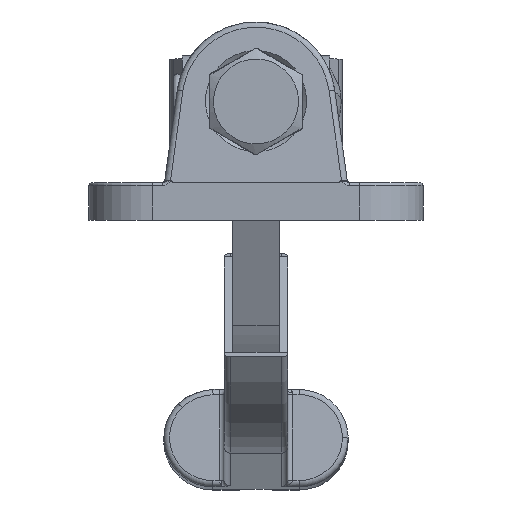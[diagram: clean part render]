
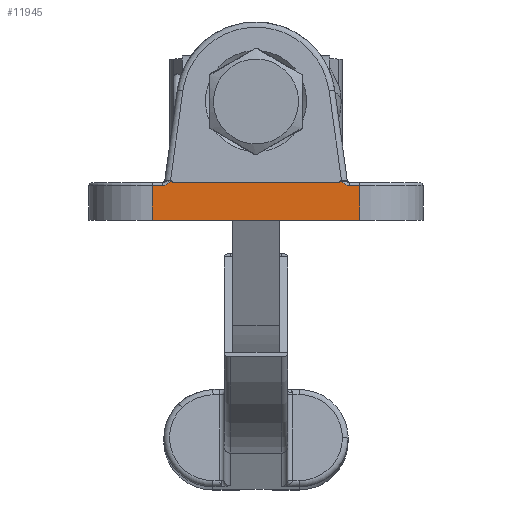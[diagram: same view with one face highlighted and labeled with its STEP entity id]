
A CAD part, left-side view. The second image highlights one B-rep face of the part: STEP entity #11945.
In plain terms, the highlighted planar face has unit normal (-1, 0, 0).
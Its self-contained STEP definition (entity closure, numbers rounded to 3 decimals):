
#317=PLANE('',#12904);
#1061=FACE_OUTER_BOUND('',#1761,.T.);
#1761=EDGE_LOOP('',(#8206,#8207,#8208,#8209,#8210,#8211,#8212,#8213));
#2539=LINE('',#17441,#3427);
#2550=LINE('',#17474,#3438);
#2551=LINE('',#17478,#3439);
#2552=LINE('',#17480,#3440);
#2553=LINE('',#17544,#3441);
#2554=LINE('',#17564,#3442);
#3427=VECTOR('',#13855,1000.);
#3438=VECTOR('',#13888,1000.);
#3439=VECTOR('',#13893,1000.);
#3440=VECTOR('',#13894,1000.);
#3441=VECTOR('',#13895,1000.);
#3442=VECTOR('',#13896,1000.);
#4266=B_SPLINE_CURVE_WITH_KNOTS('',3,(#17482,#17483,#17484,#17485,#17486,
#17487,#17488,#17489,#17490,#17491,#17492,#17493,#17494,#17495,#17496,#17497,
#17498,#17499,#17500,#17501,#17502,#17503,#17504,#17505,#17506,#17507,#17508,
#17509,#17510,#17511,#17512,#17513,#17514,#17515,#17516,#17517,#17518,#17519,
#17520,#17521,#17522,#17523,#17524,#17525,#17526,#17527,#17528,#17529,#17530,
#17531,#17532,#17533,#17534,#17535,#17536,#17537,#17538,#17539,#17540,#17541,
#17542),.UNSPECIFIED.,.F.,.F.,(4,3,3,3,3,3,3,3,3,3,3,3,3,3,3,3,3,3,3,3,
4),(0.,0.,0.001,0.001,0.001,
0.001,0.001,0.001,0.001,
0.001,0.001,0.002,0.002,
0.002,0.002,0.002,0.002,
0.002,0.002,0.002,0.002),
 .UNSPECIFIED.);
#4267=B_SPLINE_CURVE_WITH_KNOTS('',3,(#17546,#17547,#17548,#17549,#17550,
#17551,#17552,#17553,#17554,#17555,#17556,#17557,#17558,#17559,#17560,#17561,
#17562,#17563),.UNSPECIFIED.,.F.,.F.,(4,2,2,2,2,2,2,2,4),(0.,0.,
0.,0.001,0.001,0.001,
0.001,0.002,0.002),
 .UNSPECIFIED.);
#4993=VERTEX_POINT('',#17438);
#4994=VERTEX_POINT('',#17440);
#5005=VERTEX_POINT('',#17473);
#5006=VERTEX_POINT('',#17477);
#5007=VERTEX_POINT('',#17479);
#5008=VERTEX_POINT('',#17481);
#5009=VERTEX_POINT('',#17543);
#5010=VERTEX_POINT('',#17545);
#6256=EDGE_CURVE('',#4994,#4993,#2539,.T.);
#6273=EDGE_CURVE('',#5005,#4994,#2550,.T.);
#6275=EDGE_CURVE('',#5006,#4993,#2551,.T.);
#6276=EDGE_CURVE('',#5006,#5007,#2552,.T.);
#6277=EDGE_CURVE('',#5007,#5008,#4266,.T.);
#6278=EDGE_CURVE('',#5008,#5009,#2553,.T.);
#6279=EDGE_CURVE('',#5009,#5010,#4267,.T.);
#6280=EDGE_CURVE('',#5010,#5005,#2554,.T.);
#8206=ORIENTED_EDGE('',*,*,#6275,.F.);
#8207=ORIENTED_EDGE('',*,*,#6276,.T.);
#8208=ORIENTED_EDGE('',*,*,#6277,.T.);
#8209=ORIENTED_EDGE('',*,*,#6278,.T.);
#8210=ORIENTED_EDGE('',*,*,#6279,.T.);
#8211=ORIENTED_EDGE('',*,*,#6280,.T.);
#8212=ORIENTED_EDGE('',*,*,#6273,.T.);
#8213=ORIENTED_EDGE('',*,*,#6256,.T.);
#11945=ADVANCED_FACE('',(#1061),#317,.F.);
#12904=AXIS2_PLACEMENT_3D('',#17476,#13891,#13892);
#13855=DIRECTION('',(0.,-1.,0.));
#13888=DIRECTION('',(0.,0.,-1.));
#13891=DIRECTION('center_axis',(1.,0.,0.));
#13892=DIRECTION('ref_axis',(0.,0.,-1.));
#13893=DIRECTION('',(0.,0.,-1.));
#13894=DIRECTION('',(0.,1.,0.));
#13895=DIRECTION('',(0.,1.,0.));
#13896=DIRECTION('',(0.,1.,0.));
#17438=CARTESIAN_POINT('',(0.,11.,0.));
#17440=CARTESIAN_POINT('',(0.,47.,0.));
#17441=CARTESIAN_POINT('',(0.,47.,0.));
#17473=CARTESIAN_POINT('',(0.,47.,6.));
#17474=CARTESIAN_POINT('',(0.,47.,6.5));
#17476=CARTESIAN_POINT('Origin',(0.,47.,6.5));
#17477=CARTESIAN_POINT('',(0.,11.,6.));
#17478=CARTESIAN_POINT('',(0.,11.,6.5));
#17479=CARTESIAN_POINT('',(0.,12.762,6.));
#17480=CARTESIAN_POINT('',(0.,13.079,6.));
#17481=CARTESIAN_POINT('',(0.,14.524,6.478));
#17482=CARTESIAN_POINT('Ctrl Pts',(0.,12.762,
6.));
#17483=CARTESIAN_POINT('Ctrl Pts',(0.,12.884,
6.));
#17484=CARTESIAN_POINT('Ctrl Pts',(0.,13.004,
6.02));
#17485=CARTESIAN_POINT('Ctrl Pts',(0.,13.119,
6.055));
#17486=CARTESIAN_POINT('Ctrl Pts',(0.,13.167,
6.07));
#17487=CARTESIAN_POINT('Ctrl Pts',(0.,13.214,
6.087));
#17488=CARTESIAN_POINT('Ctrl Pts',(0.,13.26,
6.107));
#17489=CARTESIAN_POINT('Ctrl Pts',(0.,13.261,
6.107));
#17490=CARTESIAN_POINT('Ctrl Pts',(0.,13.262,
6.108));
#17491=CARTESIAN_POINT('Ctrl Pts',(0.,13.263,
6.108));
#17492=CARTESIAN_POINT('Ctrl Pts',(0.,13.363,
6.152));
#17493=CARTESIAN_POINT('Ctrl Pts',(0.,13.458,
6.207));
#17494=CARTESIAN_POINT('Ctrl Pts',(0.,13.547,
6.27));
#17495=CARTESIAN_POINT('Ctrl Pts',(0.,13.597,
6.305));
#17496=CARTESIAN_POINT('Ctrl Pts',(0.,13.644,
6.342));
#17497=CARTESIAN_POINT('Ctrl Pts',(0.,13.691,
6.38));
#17498=CARTESIAN_POINT('Ctrl Pts',(0.,13.692,
6.381));
#17499=CARTESIAN_POINT('Ctrl Pts',(0.,13.694,
6.383));
#17500=CARTESIAN_POINT('Ctrl Pts',(0.,13.695,
6.384));
#17501=CARTESIAN_POINT('Ctrl Pts',(0.,13.76,
6.438));
#17502=CARTESIAN_POINT('Ctrl Pts',(0.,13.822,
6.494));
#17503=CARTESIAN_POINT('Ctrl Pts',(0.,13.884,
6.55));
#17504=CARTESIAN_POINT('Ctrl Pts',(0.,13.886,
6.552));
#17505=CARTESIAN_POINT('Ctrl Pts',(0.,13.888,
6.553));
#17506=CARTESIAN_POINT('Ctrl Pts',(0.,13.89,
6.555));
#17507=CARTESIAN_POINT('Ctrl Pts',(0.,13.92,
6.582));
#17508=CARTESIAN_POINT('Ctrl Pts',(0.,13.95,
6.608));
#17509=CARTESIAN_POINT('Ctrl Pts',(0.,13.982,
6.633));
#17510=CARTESIAN_POINT('Ctrl Pts',(0.,13.984,
6.635));
#17511=CARTESIAN_POINT('Ctrl Pts',(0.,13.987,
6.636));
#17512=CARTESIAN_POINT('Ctrl Pts',(0.,13.989,
6.638));
#17513=CARTESIAN_POINT('Ctrl Pts',(0.,14.017,
6.66));
#17514=CARTESIAN_POINT('Ctrl Pts',(0.,14.047,
6.681));
#17515=CARTESIAN_POINT('Ctrl Pts',(0.,14.08,
6.695));
#17516=CARTESIAN_POINT('Ctrl Pts',(0.,14.084,
6.697));
#17517=CARTESIAN_POINT('Ctrl Pts',(0.,14.088,
6.698));
#17518=CARTESIAN_POINT('Ctrl Pts',(0.,14.091,
6.7));
#17519=CARTESIAN_POINT('Ctrl Pts',(0.,14.094,
6.701));
#17520=CARTESIAN_POINT('Ctrl Pts',(0.,14.097,
6.702));
#17521=CARTESIAN_POINT('Ctrl Pts',(0.,14.1,
6.703));
#17522=CARTESIAN_POINT('Ctrl Pts',(0.,14.132,
6.714));
#17523=CARTESIAN_POINT('Ctrl Pts',(0.,14.168,
6.716));
#17524=CARTESIAN_POINT('Ctrl Pts',(0.,14.202,
6.709));
#17525=CARTESIAN_POINT('Ctrl Pts',(0.,14.207,
6.708));
#17526=CARTESIAN_POINT('Ctrl Pts',(0.,14.212,
6.706));
#17527=CARTESIAN_POINT('Ctrl Pts',(0.,14.217,
6.705));
#17528=CARTESIAN_POINT('Ctrl Pts',(0.,14.22,
6.704));
#17529=CARTESIAN_POINT('Ctrl Pts',(0.,14.223,
6.703));
#17530=CARTESIAN_POINT('Ctrl Pts',(0.,14.226,
6.702));
#17531=CARTESIAN_POINT('Ctrl Pts',(0.,14.264,
6.688));
#17532=CARTESIAN_POINT('Ctrl Pts',(0.,14.297,
6.666));
#17533=CARTESIAN_POINT('Ctrl Pts',(0.,14.329,
6.643));
#17534=CARTESIAN_POINT('Ctrl Pts',(0.,14.331,
6.641));
#17535=CARTESIAN_POINT('Ctrl Pts',(0.,14.334,
6.639));
#17536=CARTESIAN_POINT('Ctrl Pts',(0.,14.337,
6.637));
#17537=CARTESIAN_POINT('Ctrl Pts',(0.,14.391,
6.596));
#17538=CARTESIAN_POINT('Ctrl Pts',(0.,14.441,
6.551));
#17539=CARTESIAN_POINT('Ctrl Pts',(0.,14.492,
6.506));
#17540=CARTESIAN_POINT('Ctrl Pts',(0.,14.503,
6.497));
#17541=CARTESIAN_POINT('Ctrl Pts',(0.,14.513,
6.488));
#17542=CARTESIAN_POINT('Ctrl Pts',(0.,14.524,
6.478));
#17543=CARTESIAN_POINT('',(0.,43.476,6.478));
#17544=CARTESIAN_POINT('',(0.,47.,6.478));
#17545=CARTESIAN_POINT('',(0.,45.238,6.));
#17546=CARTESIAN_POINT('Ctrl Pts',(0.,43.476,6.478));
#17547=CARTESIAN_POINT('Ctrl Pts',(0.,43.54,6.534));
#17548=CARTESIAN_POINT('Ctrl Pts',(0.,43.603,6.593));
#17549=CARTESIAN_POINT('Ctrl Pts',(0.,43.706,6.669));
#17550=CARTESIAN_POINT('Ctrl Pts',(0.,43.743,6.692));
#17551=CARTESIAN_POINT('Ctrl Pts',(0.,43.825,6.718));
#17552=CARTESIAN_POINT('Ctrl Pts',(0.,43.87,6.715));
#17553=CARTESIAN_POINT('Ctrl Pts',(0.,43.95,6.683));
#17554=CARTESIAN_POINT('Ctrl Pts',(0.,43.984,6.659));
#17555=CARTESIAN_POINT('Ctrl Pts',(0.,44.052,6.607));
#17556=CARTESIAN_POINT('Ctrl Pts',(0.,44.084,6.578));
#17557=CARTESIAN_POINT('Ctrl Pts',(0.,44.18,6.493));
#17558=CARTESIAN_POINT('Ctrl Pts',(0.,44.243,6.435));
#17559=CARTESIAN_POINT('Ctrl Pts',(0.,44.439,6.272));
#17560=CARTESIAN_POINT('Ctrl Pts',(0.,44.583,6.175));
#17561=CARTESIAN_POINT('Ctrl Pts',(0.,44.896,6.04));
#17562=CARTESIAN_POINT('Ctrl Pts',(0.,45.065,6.));
#17563=CARTESIAN_POINT('Ctrl Pts',(0.,45.238,6.));
#17564=CARTESIAN_POINT('',(0.,47.,6.));
